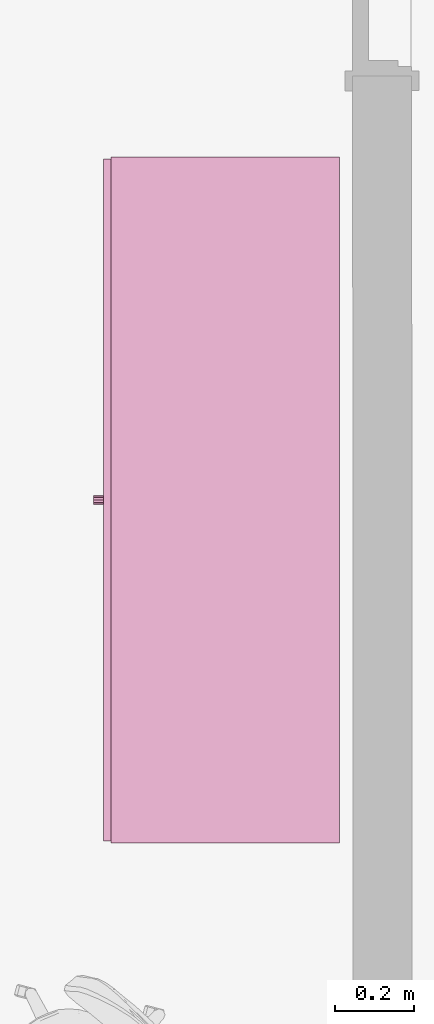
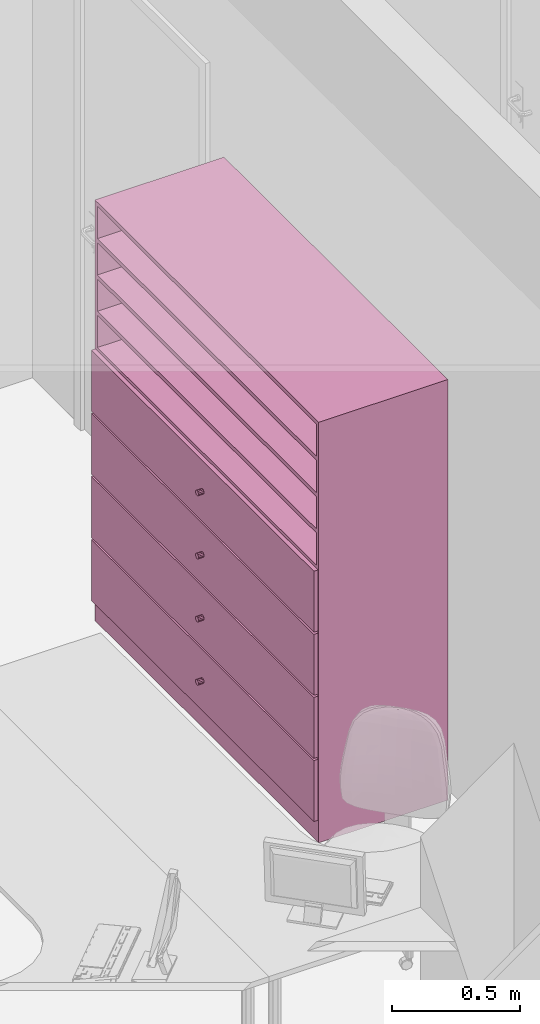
# One storey, part 170 of 194: 1 furnishing.
"""IFC2X3 building model written with IfcOpenShell, lengths in millimetres."""

from ifc_helpers import new_model, entity, si_unit, converted_unit, derived_unit, money_unit, direction, frame, origin_with_axes, place, context, subcontext, project, spatial, faceted_brep, type_object, element, save


model = new_model("IFC2X3")

# Units and contexts
model_context = context("Model", 3, precision=1e-05, world=origin_with_axes(), true_north=direction((0.0, 1.0)))
body_context = subcontext(model_context, "Body", "Model", "MODEL_VIEW")
ifc_project = project(units=[si_unit("LENGTHUNIT", "METRE", prefix="MILLI"), si_unit("AREAUNIT", "SQUARE_METRE"), si_unit("VOLUMEUNIT", "CUBIC_METRE"), converted_unit("PLANEANGLEUNIT", "DEGREE", entity("IfcPlaneAngleMeasure", 0.0174532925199), si_unit("PLANEANGLEUNIT", "RADIAN"), dimensions=[0, 0, 0, 0, 0, 0, 0]), si_unit("SOLIDANGLEUNIT", "STERADIAN"), money_unit("EUR"), converted_unit("TIMEUNIT", "Year", entity("IfcTimeMeasure", 31556926.0), si_unit("TIMEUNIT", "SECOND"), dimensions=[0, 0, 1, 0, 0, 0, 0]), si_unit("MASSUNIT", "GRAM", prefix="KILO"), si_unit("THERMODYNAMICTEMPERATUREUNIT", "DEGREE_CELSIUS"), si_unit("LUMINOUSINTENSITYUNIT", "LUMEN"), si_unit("ENERGYUNIT", "JOULE", prefix="MEGA"), derived_unit("THERMALCONDUCTANCEUNIT", [(si_unit("POWERUNIT", "WATT"), 1), (si_unit("LENGTHUNIT", "METRE"), -1), (si_unit("THERMODYNAMICTEMPERATUREUNIT", "KELVIN"), -1)]), derived_unit("SPECIFICHEATCAPACITYUNIT", [(si_unit("ENERGYUNIT", "JOULE"), 1), (si_unit("MASSUNIT", "GRAM", prefix="KILO"), -1), (si_unit("THERMODYNAMICTEMPERATUREUNIT", "KELVIN"), -1)]), derived_unit("MASSDENSITYUNIT", [(si_unit("MASSUNIT", "GRAM", prefix="KILO"), 1), (si_unit("VOLUMEUNIT", "CUBIC_METRE"), -1)])], contexts=[model_context])

# Site, building, storey
site_placement = place(None, origin_with_axes())
site = spatial("IfcSite", under=ifc_project, at=site_placement, Name="Site", CompositionType="ELEMENT")
building_placement = place(site_placement, origin_with_axes())
building = spatial("IfcBuilding", under=site, at=building_placement, Name="Building", CompositionType="ELEMENT")
storey_placement = place(building_placement, frame((0.0, 0.0, 3000.0), z_axis=(0.0, 0.0, 1.0), x_axis=(1.0, 0.0, 0.0)))
storey = spatial("IfcBuildingStorey", under=building, at=storey_placement, Name="2 KORRUS", CompositionType="ELEMENT", Elevation=3000.0)

# Furnishing
furnishing_element_type = type_object("IfcFurnishingElementType", Name="Model Element 104")
furnishing_placement = place(storey_placement, frame((37218.6812043, 63148.0994676, 0.0), z_axis=(0.0, 0.0, 1.0), x_axis=(0.0, -1.0, 0.0)))
element("IfcFurnishingElement", 1, at=furnishing_placement, inside=storey, type_object=furnishing_element_type, Name="FU - 001", context=body_context, shape_type="Brep", body=[
    faceted_brep([(1744.00383526, 19.0, 0.0), (0.0, 19.0, 0.0), (0.0, 600.0, 0.0), (1744.00383526, 600.0, 0.0), (1744.00383526, 19.0, 100.0), (0.0, 19.0, 100.0), (0.0, 600.0, 100.0), (1744.00383526, 600.0, 100.0)], [[[0, 1, 2, 3]], [[1, 0, 4, 5]], [[2, 1, 5, 6]], [[3, 2, 6, 7]], [[0, 3, 7, 4]], [[5, 4, 7, 6]]]),
    faceted_brep([(19.0, 600.0, 119.0), (19.0, 581.0, 119.0), (19.0, 581.0, 1981.0), (19.0, 600.0, 1981.0), (1725.00383526, 600.0, 119.0), (1725.00383526, 581.0, 119.0), (1725.00383526, 581.0, 1981.0), (1725.00383526, 600.0, 1981.0)], [[[0, 1, 2, 3]], [[0, 4, 5, 1]], [[1, 5, 6, 2]], [[3, 2, 6, 7]], [[4, 0, 3, 7]], [[5, 4, 7, 6]]]),
    faceted_brep([(1744.00383526, 19.0, 100.0), (1725.00383526, 19.0, 100.0), (1725.00383526, 600.0, 100.0), (1744.00383526, 600.0, 100.0), (1744.00383526, 19.0, 2000.0), (1725.00383526, 19.0, 2000.0), (1725.00383526, 600.0, 2000.0), (1744.00383526, 600.0, 2000.0)], [[[0, 1, 2, 3]], [[1, 0, 4, 5]], [[2, 1, 5, 6]], [[3, 2, 6, 7]], [[0, 3, 7, 4]], [[5, 4, 7, 6]]]),
    faceted_brep([(19.0, 19.0, 100.0), (0.0, 19.0, 100.0), (0.0, 600.0, 100.0), (19.0, 600.0, 100.0), (19.0, 19.0, 2000.0), (0.0, 19.0, 2000.0), (0.0, 600.0, 2000.0), (19.0, 600.0, 2000.0)], [[[0, 1, 2, 3]], [[1, 0, 4, 5]], [[2, 1, 5, 6]], [[3, 2, 6, 7]], [[0, 3, 7, 4]], [[5, 4, 7, 6]]]),
    faceted_brep([(1725.00383526, 19.0, 100.0), (19.0, 19.0, 100.0), (19.0, 600.0, 100.0), (1725.00383526, 600.0, 100.0), (1725.00383526, 19.0, 119.0), (19.0, 19.0, 119.0), (19.0, 600.0, 119.0), (1725.00383526, 600.0, 119.0)], [[[0, 1, 2, 3]], [[1, 0, 4, 5]], [[2, 1, 5, 6]], [[3, 2, 6, 7]], [[0, 3, 7, 4]], [[5, 4, 7, 6]]]),
    faceted_brep([(1725.00383526, 19.0, 1981.0), (19.0, 19.0, 1981.0), (19.0, 600.0, 1981.0), (1725.00383526, 600.0, 1981.0), (1725.00383526, 19.0, 2000.0), (19.0, 19.0, 2000.0), (19.0, 600.0, 2000.0), (1725.00383526, 600.0, 2000.0)], [[[0, 1, 2, 3]], [[1, 0, 4, 5]], [[2, 1, 5, 6]], [[3, 2, 6, 7]], [[0, 3, 7, 4]], [[5, 4, 7, 6]]]),
    faceted_brep([(5.0, 19.0, 105.0), (1739.00383526, 19.0, 105.0), (1739.00383526, 0.0, 105.0), (5.0, 0.0, 105.0), (5.0, 19.0, 395.0), (1739.00383526, 19.0, 395.0), (1739.00383526, 0.0, 395.0), (5.0, 0.0, 395.0)], [[[0, 1, 2, 3]], [[0, 4, 5, 1]], [[1, 5, 6, 2]], [[3, 2, 6, 7]], [[4, 0, 3, 7]], [[5, 4, 7, 6]]]),
    faceted_brep([(882.394222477, 0.0, 244.0), (878.001917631, 0.0, 239.607695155), (872.001917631, 0.0, 238.0), (866.001917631, 0.0, 239.607695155), (861.609612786, 0.0, 244.0), (860.001917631, 0.0, 250.0), (861.609612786, 0.0, 256.0), (866.001917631, 0.0, 260.392304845), (872.001917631, 0.0, 262.0), (878.001917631, 0.0, 260.392304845), (882.394222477, 0.0, 256.0), (884.001917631, 0.0, 250.0), (882.394222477, -25.0, 244.0), (878.001917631, -25.0, 239.607695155), (872.001917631, -25.0, 238.0), (866.001917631, -25.0, 239.607695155), (861.609612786, -25.0, 244.0), (860.001917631, -25.0, 250.0), (861.609612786, -25.0, 256.0), (866.001917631, -25.0, 260.392304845), (872.001917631, -25.0, 262.0), (878.001917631, -25.0, 260.392304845), (882.394222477, -25.0, 256.0), (884.001917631, -25.0, 250.0)], [[[0, 1, 2, 3, 4, 5, 6, 7, 8, 9, 10, 11]], [[1, 0, 12, 13]], [[2, 1, 13, 14]], [[3, 2, 14, 15]], [[4, 3, 15, 16]], [[5, 4, 16, 17]], [[6, 5, 17, 18]], [[7, 6, 18, 19]], [[8, 7, 19, 20]], [[9, 8, 20, 21]], [[10, 9, 21, 22]], [[11, 10, 22, 23]], [[0, 11, 23, 12]], [[12, 23, 22, 21, 20, 19, 18, 17, 16, 15, 14, 13]]]),
    faceted_brep([(5.0, 19.0, 405.0), (1739.00383526, 19.0, 405.0), (1739.00383526, 0.0, 405.0), (5.0, 0.0, 405.0), (5.0, 19.0, 695.0), (1739.00383526, 19.0, 695.0), (1739.00383526, 0.0, 695.0), (5.0, 0.0, 695.0)], [[[0, 1, 2, 3]], [[0, 4, 5, 1]], [[1, 5, 6, 2]], [[3, 2, 6, 7]], [[4, 0, 3, 7]], [[5, 4, 7, 6]]]),
    faceted_brep([(882.394222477, 0.0, 544.0), (878.001917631, 0.0, 539.607695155), (872.001917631, 0.0, 538.0), (866.001917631, 0.0, 539.607695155), (861.609612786, 0.0, 544.0), (860.001917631, 0.0, 550.0), (861.609612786, 0.0, 556.0), (866.001917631, 0.0, 560.392304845), (872.001917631, 0.0, 562.0), (878.001917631, 0.0, 560.392304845), (882.394222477, 0.0, 556.0), (884.001917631, 0.0, 550.0), (882.394222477, -25.0, 544.0), (878.001917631, -25.0, 539.607695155), (872.001917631, -25.0, 538.0), (866.001917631, -25.0, 539.607695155), (861.609612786, -25.0, 544.0), (860.001917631, -25.0, 550.0), (861.609612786, -25.0, 556.0), (866.001917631, -25.0, 560.392304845), (872.001917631, -25.0, 562.0), (878.001917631, -25.0, 560.392304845), (882.394222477, -25.0, 556.0), (884.001917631, -25.0, 550.0)], [[[0, 1, 2, 3, 4, 5, 6, 7, 8, 9, 10, 11]], [[1, 0, 12, 13]], [[2, 1, 13, 14]], [[3, 2, 14, 15]], [[4, 3, 15, 16]], [[5, 4, 16, 17]], [[6, 5, 17, 18]], [[7, 6, 18, 19]], [[8, 7, 19, 20]], [[9, 8, 20, 21]], [[10, 9, 21, 22]], [[11, 10, 22, 23]], [[0, 11, 23, 12]], [[12, 23, 22, 21, 20, 19, 18, 17, 16, 15, 14, 13]]]),
    faceted_brep([(5.0, 19.0, 705.0), (1739.00383526, 19.0, 705.0), (1739.00383526, 0.0, 705.0), (5.0, 0.0, 705.0), (5.0, 19.0, 995.0), (1739.00383526, 19.0, 995.0), (1739.00383526, 0.0, 995.0), (5.0, 0.0, 995.0)], [[[0, 1, 2, 3]], [[0, 4, 5, 1]], [[1, 5, 6, 2]], [[3, 2, 6, 7]], [[4, 0, 3, 7]], [[5, 4, 7, 6]]]),
    faceted_brep([(882.394222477, 0.0, 844.0), (878.001917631, 0.0, 839.607695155), (872.001917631, 0.0, 838.0), (866.001917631, 0.0, 839.607695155), (861.609612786, 0.0, 844.0), (860.001917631, 0.0, 850.0), (861.609612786, 0.0, 856.0), (866.001917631, 0.0, 860.392304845), (872.001917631, 0.0, 862.0), (878.001917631, 0.0, 860.392304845), (882.394222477, 0.0, 856.0), (884.001917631, 0.0, 850.0), (882.394222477, -25.0, 844.0), (878.001917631, -25.0, 839.607695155), (872.001917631, -25.0, 838.0), (866.001917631, -25.0, 839.607695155), (861.609612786, -25.0, 844.0), (860.001917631, -25.0, 850.0), (861.609612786, -25.0, 856.0), (866.001917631, -25.0, 860.392304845), (872.001917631, -25.0, 862.0), (878.001917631, -25.0, 860.392304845), (882.394222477, -25.0, 856.0), (884.001917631, -25.0, 850.0)], [[[0, 1, 2, 3, 4, 5, 6, 7, 8, 9, 10, 11]], [[1, 0, 12, 13]], [[2, 1, 13, 14]], [[3, 2, 14, 15]], [[4, 3, 15, 16]], [[5, 4, 16, 17]], [[6, 5, 17, 18]], [[7, 6, 18, 19]], [[8, 7, 19, 20]], [[9, 8, 20, 21]], [[10, 9, 21, 22]], [[11, 10, 22, 23]], [[0, 11, 23, 12]], [[12, 23, 22, 21, 20, 19, 18, 17, 16, 15, 14, 13]]]),
    faceted_brep([(5.0, 19.0, 1005.0), (1739.00383526, 19.0, 1005.0), (1739.00383526, 0.0, 1005.0), (5.0, 0.0, 1005.0), (5.0, 19.0, 1295.0), (1739.00383526, 19.0, 1295.0), (1739.00383526, 0.0, 1295.0), (5.0, 0.0, 1295.0)], [[[0, 1, 2, 3]], [[0, 4, 5, 1]], [[1, 5, 6, 2]], [[3, 2, 6, 7]], [[4, 0, 3, 7]], [[5, 4, 7, 6]]]),
    faceted_brep([(882.394222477, 0.0, 1144.0), (878.001917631, 0.0, 1139.60769515), (872.001917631, 0.0, 1138.0), (866.001917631, 0.0, 1139.60769515), (861.609612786, 0.0, 1144.0), (860.001917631, 0.0, 1150.0), (861.609612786, 0.0, 1156.0), (866.001917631, 0.0, 1160.39230485), (872.001917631, 0.0, 1162.0), (878.001917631, 0.0, 1160.39230485), (882.394222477, 0.0, 1156.0), (884.001917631, 0.0, 1150.0), (882.394222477, -25.0, 1144.0), (878.001917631, -25.0, 1139.60769515), (872.001917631, -25.0, 1138.0), (866.001917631, -25.0, 1139.60769515), (861.609612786, -25.0, 1144.0), (860.001917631, -25.0, 1150.0), (861.609612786, -25.0, 1156.0), (866.001917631, -25.0, 1160.39230485), (872.001917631, -25.0, 1162.0), (878.001917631, -25.0, 1160.39230485), (882.394222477, -25.0, 1156.0), (884.001917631, -25.0, 1150.0)], [[[0, 1, 2, 3, 4, 5, 6, 7, 8, 9, 10, 11]], [[1, 0, 12, 13]], [[2, 1, 13, 14]], [[3, 2, 14, 15]], [[4, 3, 15, 16]], [[5, 4, 16, 17]], [[6, 5, 17, 18]], [[7, 6, 18, 19]], [[8, 7, 19, 20]], [[9, 8, 20, 21]], [[10, 9, 21, 22]], [[11, 10, 22, 23]], [[0, 11, 23, 12]], [[12, 23, 22, 21, 20, 19, 18, 17, 16, 15, 14, 13]]]),
    faceted_brep([(19.0, 19.0, 390.5), (1725.00383526, 19.0, 390.5), (1725.00383526, 19.0, 409.5), (19.0, 19.0, 409.5), (19.0, 581.0, 390.5), (1725.00383526, 581.0, 390.5), (1725.00383526, 581.0, 409.5), (19.0, 581.0, 409.5)], [[[0, 1, 2, 3]], [[0, 4, 5, 1]], [[1, 5, 6, 2]], [[3, 2, 6, 7]], [[4, 0, 3, 7]], [[5, 4, 7, 6]]]),
    faceted_brep([(19.0, 19.0, 690.5), (1725.00383526, 19.0, 690.5), (1725.00383526, 19.0, 709.5), (19.0, 19.0, 709.5), (19.0, 581.0, 690.5), (1725.00383526, 581.0, 690.5), (1725.00383526, 581.0, 709.5), (19.0, 581.0, 709.5)], [[[0, 1, 2, 3]], [[0, 4, 5, 1]], [[1, 5, 6, 2]], [[3, 2, 6, 7]], [[4, 0, 3, 7]], [[5, 4, 7, 6]]]),
    faceted_brep([(19.0, 19.0, 990.5), (1725.00383526, 19.0, 990.5), (1725.00383526, 19.0, 1009.5), (19.0, 19.0, 1009.5), (19.0, 581.0, 990.5), (1725.00383526, 581.0, 990.5), (1725.00383526, 581.0, 1009.5), (19.0, 581.0, 1009.5)], [[[0, 1, 2, 3]], [[0, 4, 5, 1]], [[1, 5, 6, 2]], [[3, 2, 6, 7]], [[4, 0, 3, 7]], [[5, 4, 7, 6]]]),
    faceted_brep([(19.0, 19.0, 1290.5), (1725.00383526, 19.0, 1290.5), (1725.00383526, 19.0, 1309.5), (19.0, 19.0, 1309.5), (19.0, 581.0, 1290.5), (1725.00383526, 581.0, 1290.5), (1725.00383526, 581.0, 1309.5), (19.0, 581.0, 1309.5)], [[[0, 1, 2, 3]], [[0, 4, 5, 1]], [[1, 5, 6, 2]], [[3, 2, 6, 7]], [[4, 0, 3, 7]], [[5, 4, 7, 6]]]),
    faceted_brep([(1725.00383526, 19.0, 1463.125), (19.0, 19.0, 1463.125), (19.0, 581.0, 1463.125), (1725.00383526, 581.0, 1463.125), (1725.00383526, 19.0, 1482.125), (19.0, 19.0, 1482.125), (19.0, 581.0, 1482.125), (1725.00383526, 581.0, 1482.125)], [[[0, 1, 2, 3]], [[1, 0, 4, 5]], [[2, 1, 5, 6]], [[3, 2, 6, 7]], [[0, 3, 7, 4]], [[5, 4, 7, 6]]]),
    faceted_brep([(1725.00383526, 19.0, 1635.75), (19.0, 19.0, 1635.75), (19.0, 581.0, 1635.75), (1725.00383526, 581.0, 1635.75), (1725.00383526, 19.0, 1654.75), (19.0, 19.0, 1654.75), (19.0, 581.0, 1654.75), (1725.00383526, 581.0, 1654.75)], [[[0, 1, 2, 3]], [[1, 0, 4, 5]], [[2, 1, 5, 6]], [[3, 2, 6, 7]], [[0, 3, 7, 4]], [[5, 4, 7, 6]]]),
    faceted_brep([(1725.00383526, 19.0, 1808.375), (19.0, 19.0, 1808.375), (19.0, 581.0, 1808.375), (1725.00383526, 581.0, 1808.375), (1725.00383526, 19.0, 1827.375), (19.0, 19.0, 1827.375), (19.0, 581.0, 1827.375), (1725.00383526, 581.0, 1827.375)], [[[0, 1, 2, 3]], [[1, 0, 4, 5]], [[2, 1, 5, 6]], [[3, 2, 6, 7]], [[0, 3, 7, 4]], [[5, 4, 7, 6]]]),
])

save(model, "model.ifc")
